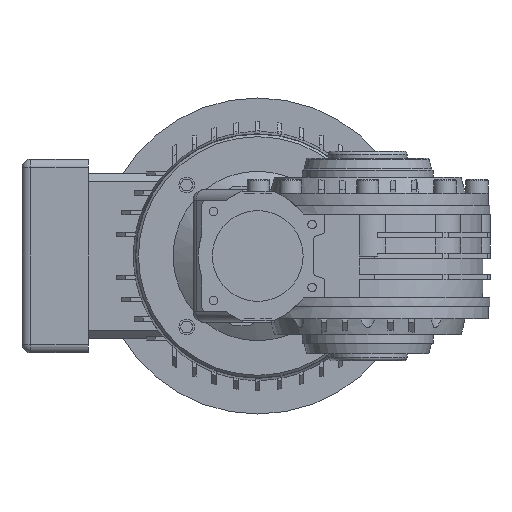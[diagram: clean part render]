
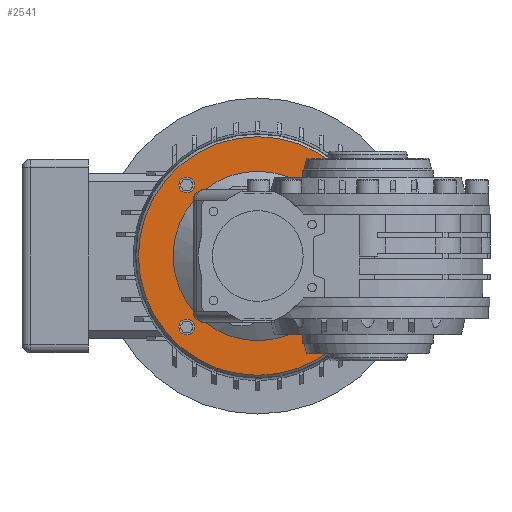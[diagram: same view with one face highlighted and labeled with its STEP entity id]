
A CAD part, left-side view. The second image highlights one B-rep face of the part: STEP entity #2541.
In plain terms, the highlighted planar face has unit normal (-1, 0, 0).
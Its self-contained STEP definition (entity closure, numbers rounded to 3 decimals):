
#2541 = ADVANCED_FACE( '', ( #5526, #5527, #5528, #5529, #5530, #5531 ), #5532, .F. );
#5526 = FACE_OUTER_BOUND( '', #9151, .T. );
#5527 = FACE_BOUND( '', #9152, .T. );
#5528 = FACE_BOUND( '', #9153, .T. );
#5529 = FACE_BOUND( '', #9154, .T. );
#5530 = FACE_BOUND( '', #9155, .T. );
#5531 = FACE_BOUND( '', #9156, .T. );
#5532 = PLANE( '', #9157 );
#9151 = EDGE_LOOP( '', ( #16804 ) );
#9152 = EDGE_LOOP( '', ( #16805 ) );
#9153 = EDGE_LOOP( '', ( #16806 ) );
#9154 = EDGE_LOOP( '', ( #16807 ) );
#9155 = EDGE_LOOP( '', ( #16808 ) );
#9156 = EDGE_LOOP( '', ( #16809, #16810, #16811, #16812, #16813, #16814, #16815, #16816 ) );
#9157 = AXIS2_PLACEMENT_3D( '', #16817, #16818, #16819 );
#16804 = ORIENTED_EDGE( '', *, *, #23146, .T. );
#16805 = ORIENTED_EDGE( '', *, *, #21426, .T. );
#16806 = ORIENTED_EDGE( '', *, *, #22924, .T. );
#16807 = ORIENTED_EDGE( '', *, *, #21714, .T. );
#16808 = ORIENTED_EDGE( '', *, *, #21574, .T. );
#16809 = ORIENTED_EDGE( '', *, *, #23147, .F. );
#16810 = ORIENTED_EDGE( '', *, *, #21690, .F. );
#16811 = ORIENTED_EDGE( '', *, *, #21891, .F. );
#16812 = ORIENTED_EDGE( '', *, *, #22928, .F. );
#16813 = ORIENTED_EDGE( '', *, *, #20104, .F. );
#16814 = ORIENTED_EDGE( '', *, *, #23148, .F. );
#16815 = ORIENTED_EDGE( '', *, *, #22304, .F. );
#16816 = ORIENTED_EDGE( '', *, *, #23149, .F. );
#16817 = CARTESIAN_POINT( '', ( 88.5, 131.334, 0. ) );
#16818 = DIRECTION( '', ( 1., 0., 0. ) );
#16819 = DIRECTION( '', ( 0., 0., 1. ) );
#20104 = EDGE_CURVE( '', #23848, #23850, #23851, .T. );
#21426 = EDGE_CURVE( '', #26123, #26123, #26124, .T. );
#21574 = EDGE_CURVE( '', #26361, #26361, #26362, .T. );
#21690 = EDGE_CURVE( '', #26534, #26535, #26537, .T. );
#21714 = EDGE_CURVE( '', #26572, #26572, #26573, .T. );
#21891 = EDGE_CURVE( '', #26850, #26534, #26852, .T. );
#22304 = EDGE_CURVE( '', #26444, #27464, #27465, .T. );
#22924 = EDGE_CURVE( '', #28304, #28304, #28305, .T. );
#22928 = EDGE_CURVE( '', #23850, #26850, #28310, .T. );
#23146 = EDGE_CURVE( '', #28585, #28585, #28586, .T. );
#23147 = EDGE_CURVE( '', #26535, #26437, #28587, .T. );
#23148 = EDGE_CURVE( '', #27464, #23848, #28588, .T. );
#23149 = EDGE_CURVE( '', #26437, #26444, #28589, .T. );
#23848 = VERTEX_POINT( '', #29382 );
#23850 = VERTEX_POINT( '', #29385 );
#23851 = CIRCLE( '', #29386, 48.5 );
#26123 = VERTEX_POINT( '', #32962 );
#26124 = CIRCLE( '', #32963, 4.5 );
#26361 = VERTEX_POINT( '', #33333 );
#26362 = CIRCLE( '', #33334, 4.5 );
#26437 = VERTEX_POINT( '', #33433 );
#26444 = VERTEX_POINT( '', #33454 );
#26534 = VERTEX_POINT( '', #33583 );
#26535 = VERTEX_POINT( '', #33584 );
#26537 = CIRCLE( '', #33607, 48.5 );
#26572 = VERTEX_POINT( '', #33688 );
#26573 = CIRCLE( '', #33689, 4.5 );
#26850 = VERTEX_POINT( '', #34084 );
#26852 = CIRCLE( '', #34087, 48.5 );
#27464 = VERTEX_POINT( '', #34951 );
#27465 = CIRCLE( '', #34952, 48.5 );
#28304 = VERTEX_POINT( '', #36242 );
#28305 = CIRCLE( '', #36243, 4.5 );
#28310 = CIRCLE( '', #36251, 48.5 );
#28585 = VERTEX_POINT( '', #36667 );
#28586 = CIRCLE( '', #36668, 68.334 );
#28587 = CIRCLE( '', #36669, 48.5 );
#28588 = CIRCLE( '', #36670, 48.5 );
#28589 = CIRCLE( '', #36671, 48.5 );
#29382 = CARTESIAN_POINT( '', ( 88.5, 100., -31.357 ) );
#29385 = CARTESIAN_POINT( '', ( 88.5, 93.137, -38. ) );
#29386 = AXIS2_PLACEMENT_3D( '', #37752, #37753, #37754 );
#32962 = CARTESIAN_POINT( '', ( 88.5, 108.159, -40.659 ) );
#32963 = AXIS2_PLACEMENT_3D( '', #39376, #39377, #39378 );
#33333 = CARTESIAN_POINT( '', ( 88.5, 108.159, 40.659 ) );
#33334 = AXIS2_PLACEMENT_3D( '', #39555, #39556, #39557 );
#33433 = CARTESIAN_POINT( '', ( 88.5, 32.863, 38. ) );
#33454 = CARTESIAN_POINT( '', ( 88.5, 93.137, 38. ) );
#33583 = CARTESIAN_POINT( '', ( 88.5, 26., -31.357 ) );
#33584 = CARTESIAN_POINT( '', ( 88.5, 26., 31.357 ) );
#33607 = AXIS2_PLACEMENT_3D( '', #39703, #39704, #39705 );
#33688 = CARTESIAN_POINT( '', ( 88.5, 26.841, 40.659 ) );
#33689 = AXIS2_PLACEMENT_3D( '', #39734, #39735, #39736 );
#34084 = CARTESIAN_POINT( '', ( 88.5, 32.863, -38. ) );
#34087 = AXIS2_PLACEMENT_3D( '', #39952, #39953, #39954 );
#34951 = CARTESIAN_POINT( '', ( 88.5, 100., 31.357 ) );
#34952 = AXIS2_PLACEMENT_3D( '', #40577, #40578, #40579 );
#36242 = CARTESIAN_POINT( '', ( 88.5, 26.841, -40.659 ) );
#36243 = AXIS2_PLACEMENT_3D( '', #41289, #41290, #41291 );
#36251 = AXIS2_PLACEMENT_3D( '', #41295, #41296, #41297 );
#36667 = CARTESIAN_POINT( '', ( 88.5, -5.334, 0. ) );
#36668 = AXIS2_PLACEMENT_3D( '', #41510, #41511, #41512 );
#36669 = AXIS2_PLACEMENT_3D( '', #41513, #41514, #41515 );
#36670 = AXIS2_PLACEMENT_3D( '', #41516, #41517, #41518 );
#36671 = AXIS2_PLACEMENT_3D( '', #41519, #41520, #41521 );
#37752 = CARTESIAN_POINT( '', ( 88.5, 63., 0. ) );
#37753 = DIRECTION( '', ( -1., 0., 0. ) );
#37754 = DIRECTION( '', ( 0., 1., 0. ) );
#39376 = CARTESIAN_POINT( '', ( 88.5, 103.659, -40.659 ) );
#39377 = DIRECTION( '', ( 1., 0., 0. ) );
#39378 = DIRECTION( '', ( 0., 1., 0. ) );
#39555 = CARTESIAN_POINT( '', ( 88.5, 103.659, 40.659 ) );
#39556 = DIRECTION( '', ( 1., 0., 0. ) );
#39557 = DIRECTION( '', ( 0., 1., 0. ) );
#39703 = CARTESIAN_POINT( '', ( 88.5, 63., 0. ) );
#39704 = DIRECTION( '', ( -1., 0., 0. ) );
#39705 = DIRECTION( '', ( 0., -1., 0. ) );
#39734 = CARTESIAN_POINT( '', ( 88.5, 22.341, 40.659 ) );
#39735 = DIRECTION( '', ( 1., 0., 0. ) );
#39736 = DIRECTION( '', ( 0., 1., 0. ) );
#39952 = CARTESIAN_POINT( '', ( 88.5, 63., 0. ) );
#39953 = DIRECTION( '', ( -1., 0., 0. ) );
#39954 = DIRECTION( '', ( 0., 1., 0. ) );
#40577 = CARTESIAN_POINT( '', ( 88.5, 63., 0. ) );
#40578 = DIRECTION( '', ( -1., 0., 0. ) );
#40579 = DIRECTION( '', ( 0., 1., 0. ) );
#41289 = CARTESIAN_POINT( '', ( 88.5, 22.341, -40.659 ) );
#41290 = DIRECTION( '', ( 1., 0., 0. ) );
#41291 = DIRECTION( '', ( 0., 1., 0. ) );
#41295 = CARTESIAN_POINT( '', ( 88.5, 63., 0. ) );
#41296 = DIRECTION( '', ( -1., 0., 0. ) );
#41297 = DIRECTION( '', ( 0., -1., 0. ) );
#41510 = CARTESIAN_POINT( '', ( 88.5, 63., 0. ) );
#41511 = DIRECTION( '', ( -1., 0., 0. ) );
#41512 = DIRECTION( '', ( 0., -1., 0. ) );
#41513 = CARTESIAN_POINT( '', ( 88.5, 63., 0. ) );
#41514 = DIRECTION( '', ( -1., 0., 0. ) );
#41515 = DIRECTION( '', ( 0., -1., 0. ) );
#41516 = CARTESIAN_POINT( '', ( 88.5, 63., 0. ) );
#41517 = DIRECTION( '', ( -1., 0., 0. ) );
#41518 = DIRECTION( '', ( 0., -1., 0. ) );
#41519 = CARTESIAN_POINT( '', ( 88.5, 63., 0. ) );
#41520 = DIRECTION( '', ( -1., 0., 0. ) );
#41521 = DIRECTION( '', ( 0., -1., 0. ) );
